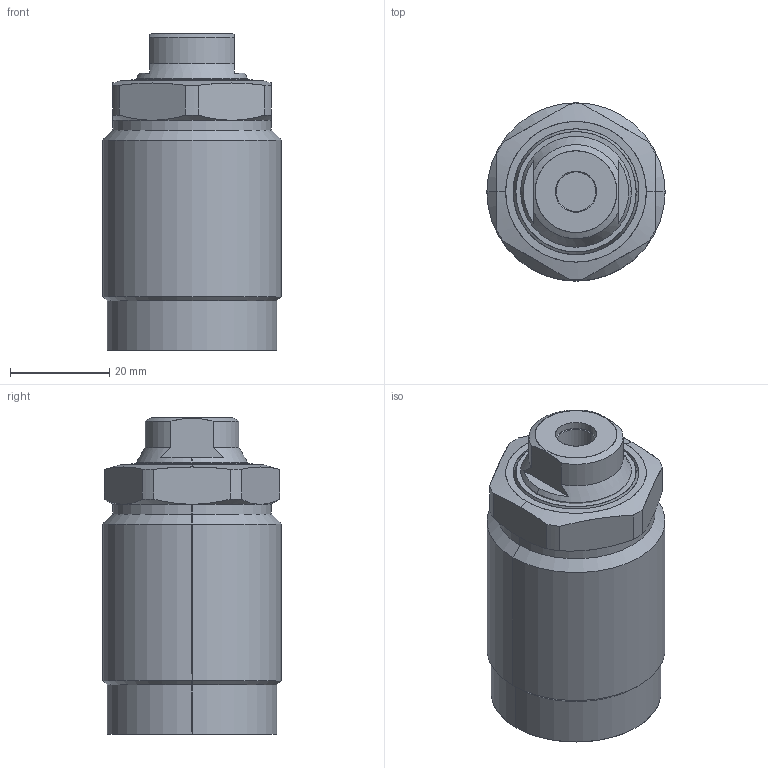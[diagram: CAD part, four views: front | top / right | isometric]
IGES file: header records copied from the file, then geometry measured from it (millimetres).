
Start section: SolidWorks IGES file using analytic representation for surfaces
Global section: file name: D:\abhilash\nijil\cylinder\Clasys1\dp converted\05\pt\0502\0102-0502.IGS; native system: SolidWorks 2010; preprocessor: SolidWorks 2010; author: nidheesh; date: 130730.113359; units: millimetre
Bounding box: 36 x 36 x 64 mm (x, y, z)
Surface area: 10784.1 mm2 (no closed solid volume)
Topology: 0 solids, 0 shells, 70 faces, 1078 edges, 1078 vertices
Faces by surface type: revolution 46, bspline 24
